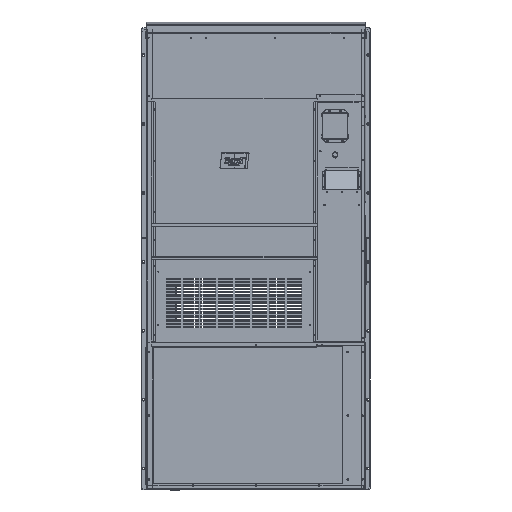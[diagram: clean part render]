
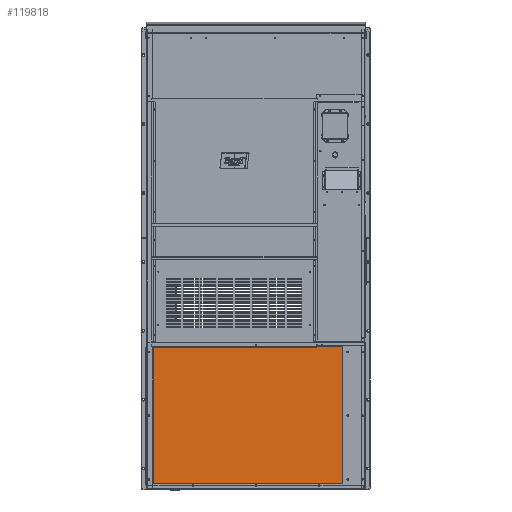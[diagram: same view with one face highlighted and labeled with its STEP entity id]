
A CAD part, top view. The second image highlights one B-rep face of the part: STEP entity #119818.
In plain terms, the highlighted planar face has unit normal (0, 0, 1) as drawn and (0, 0, -1) by its records, which use the part's own axes.
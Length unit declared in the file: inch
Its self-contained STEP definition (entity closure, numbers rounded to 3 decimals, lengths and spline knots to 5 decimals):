
#7588 = DIRECTION ( 'NONE',  ( 1., 0., 0. ) ) ;
#11393 = EDGE_CURVE ( 'NONE', #137795, #121664, #137632, .T. ) ;
#11652 = EDGE_CURVE ( 'NONE', #103025, #115051, #49802, .T. ) ;
#17730 = AXIS2_PLACEMENT_3D ( 'NONE', #56947, #138602, #68710 ) ;
#19557 = EDGE_LOOP ( 'NONE', ( #132539, #87857, #19793, #75418 ) ) ;
#19793 = ORIENTED_EDGE ( 'NONE', *, *, #11652, .F. ) ;
#22406 = LINE ( 'NONE', #137556, #53492 ) ;
#34236 = FACE_OUTER_BOUND ( 'NONE', #19557, .T. ) ;
#34466 = CARTESIAN_POINT ( 'NONE',  ( 0.78172, 36.85495, 0. ) ) ;
#35999 = CARTESIAN_POINT ( 'NONE',  ( 24.67973, 36.85495, 0. ) ) ;
#48055 = VECTOR ( 'NONE', #118555, 39.37008 ) ;
#49802 = LINE ( 'NONE', #77623, #143020 ) ;
#53492 = VECTOR ( 'NONE', #55887, 39.37008 ) ;
#54409 = CARTESIAN_POINT ( 'NONE',  ( 0.78172, 36.85495, 0. ) ) ;
#55887 = DIRECTION ( 'NONE',  ( 0., 1., 0. ) ) ;
#56947 = CARTESIAN_POINT ( 'NONE',  ( 0.78172, 3.92895, 0. ) ) ;
#58471 = DIRECTION ( 'NONE',  ( 0., -1., 0. ) ) ;
#58682 = EDGE_CURVE ( 'NONE', #115051, #137795, #22406, .T. ) ;
#68710 = DIRECTION ( 'NONE',  ( 1., 0., 0. ) ) ;
#71880 = VECTOR ( 'NONE', #58471, 39.37008 ) ;
#75418 = ORIENTED_EDGE ( 'NONE', *, *, #108326, .F. ) ;
#77623 = CARTESIAN_POINT ( 'NONE',  ( 0.78172, 3.92895, 0. ) ) ;
#78461 = CARTESIAN_POINT ( 'NONE',  ( 0.78172, 3.92895, 0. ) ) ;
#87857 = ORIENTED_EDGE ( 'NONE', *, *, #58682, .F. ) ;
#103022 = LINE ( 'NONE', #34466, #71880 ) ;
#103025 = VERTEX_POINT ( 'NONE', #78461 ) ;
#106354 = CARTESIAN_POINT ( 'NONE',  ( 0.78172, 36.85495, 0. ) ) ;
#108326 = EDGE_CURVE ( 'NONE', #121664, #103025, #103022, .T. ) ;
#115051 = VERTEX_POINT ( 'NONE', #124928 ) ;
#118555 = DIRECTION ( 'NONE',  ( -1., 0., 0. ) ) ;
#119818 = ADVANCED_FACE ( 'N', ( #34236 ), #124841, .F. ) ;
#121664 = VERTEX_POINT ( 'NONE', #54409 ) ;
#124841 = PLANE ( 'NONE',  #17730 ) ;
#124928 = CARTESIAN_POINT ( 'NONE',  ( 24.67973, 3.92895, 0. ) ) ;
#132539 = ORIENTED_EDGE ( 'NONE', *, *, #11393, .F. ) ;
#137556 = CARTESIAN_POINT ( 'NONE',  ( 24.67973, 36.85495, 0. ) ) ;
#137632 = LINE ( 'NONE', #106354, #48055 ) ;
#137795 = VERTEX_POINT ( 'NONE', #35999 ) ;
#138602 = DIRECTION ( 'NONE',  ( 0., 0., 1. ) ) ;
#143020 = VECTOR ( 'NONE', #7588, 39.37008 ) ;
